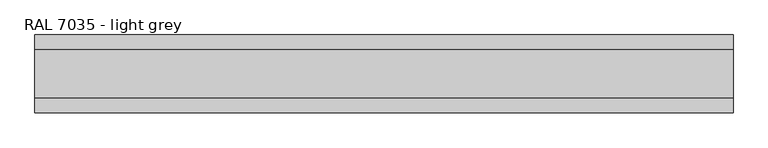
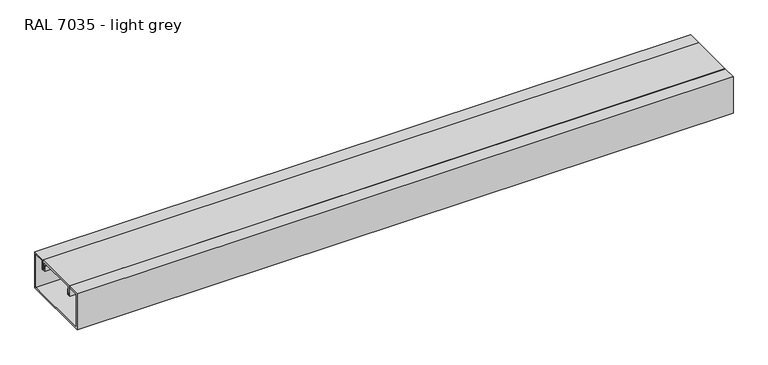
"""IFC4 building model written with IfcOpenShell, lengths in millimetres: proxy geometry, Electrical_Installations_Hager_BRP-Lid-End-Cap-One-Compartment : RAL 7035 - light grey."""

from ifc_helpers import new_model, si_unit, frame, origin, place, context, project, spatial, polyline, outline, extrude, source, transform, mapped, element, save


def ral_7035_light_grey_0419c17c(model_context):
    return source(origin(), model_context, "Body", "SweptSolid", [
        extrude(outline(polyline([(40.0, 18.6492509), (37.5361498, 18.6492509), (37.5361498, 30.0), (-37.5361498, 30.0), (-37.5361498, 18.6492509), (-40.0, 18.6492509), (-40.0, 33.0), (40.0, 33.0), (40.0, 18.6492509)])), frame((0.0, 0.0, 0.0), z_axis=(1.0, 0.0, 0.0), x_axis=(0.0, 1.0, 0.0)), (0.0, 0.0, 1.0), 1163.9798163),
        extrude(outline(polyline([(65.0, 33.0), (65.0, -35.0582587), (-65.0, -35.0582587), (-65.0, 33.0), (-40.5, 33.0), (-40.5, 16.0), (-36.578125, 16.0), (-36.578125, 24.0415809), (-35.3, 24.0415809), (-35.3, 14.0), (-42.5, 14.0), (-42.5, 30.0), (-62.0, 30.0), (-62.0, -32.0582587), (62.0, -32.0582587), (62.0, 30.0), (42.5, 30.0), (42.5, 14.0), (35.221875, 14.0), (35.221875, 24.0415809), (36.5, 24.0415809), (36.5, 16.0), (40.5, 16.0), (40.5, 33.0), (65.0, 33.0)])), frame((0.0, 0.0, 0.0), z_axis=(1.0, 0.0, 0.0), x_axis=(0.0, 1.0, 0.0)), (0.0, 0.0, 1.0), 1163.9798163),
    ])


if __name__ == "__main__":
    model = new_model("IFC4")
    model_context = context("Model", 3, world=origin())
    ifc_project = project(units=[si_unit("LENGTHUNIT", "METRE", prefix="MILLI")], contexts=[model_context])
    site = spatial("IfcSite", under=ifc_project)
    building = spatial("IfcBuilding", under=site)
    placement = place(None, origin())
    ral_7035_light_grey_shape = ral_7035_light_grey_0419c17c(model_context)
    element("IfcBuildingElementProxy", 1, Name="Electrical_Installations_Hager_BRP-Lid-End-Cap-One-Compartment : RAL 7035 - light grey", ObjectType="Electrical_Installations_Hager_BRP-Lid-End-Cap-One-Compartment : RAL 7035 - light grey", at=placement, inside=building, context=model_context, shape_type="MappedRepresentation", body=[
        mapped(ral_7035_light_grey_shape, transform((0.0, 0.0, 0.0), x_axis=(1.0, 0.0, 0.0), y_axis=(0.0, 1.0, 0.0), z_axis=(0.0, 0.0, 1.0))),
    ])
    save(model, "model.ifc")
